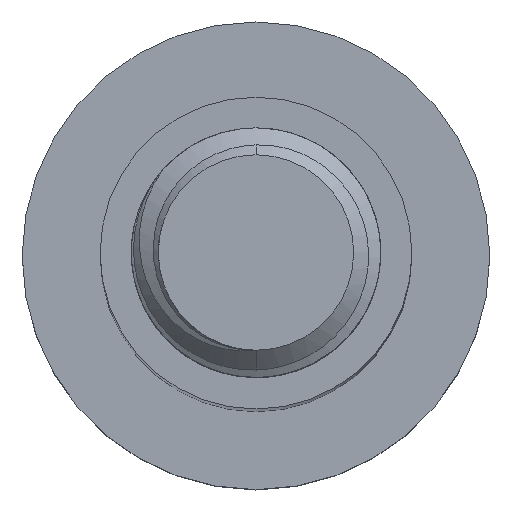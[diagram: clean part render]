
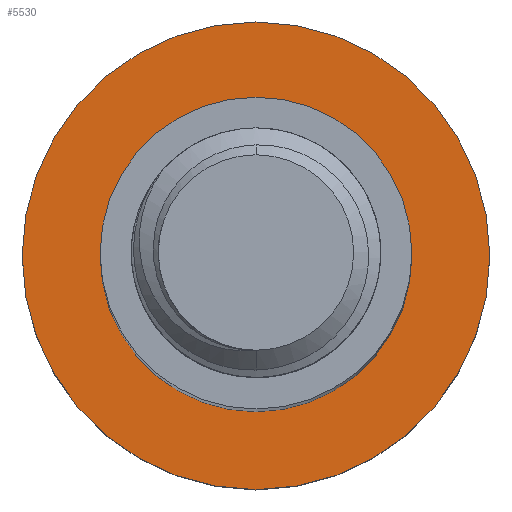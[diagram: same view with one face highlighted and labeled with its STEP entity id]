
A CAD part, top view. The second image highlights one B-rep face of the part: STEP entity #5530.
In plain terms, the highlighted planar face has unit normal (0, 0, 1).
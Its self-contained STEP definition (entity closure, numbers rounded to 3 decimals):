
#116 = ORIENTED_EDGE ( 'NONE', *, *, #5667, .F. ) ;
#378 = CIRCLE ( 'NONE', #1298, 15. ) ;
#610 = EDGE_CURVE ( 'NONE', #5386, #3645, #3294, .T. ) ;
#740 = CARTESIAN_POINT ( 'NONE',  ( 15., 0., -100. ) ) ;
#923 = AXIS2_PLACEMENT_3D ( 'NONE', #1128, #4188, #5190 ) ;
#1128 = CARTESIAN_POINT ( 'NONE',  ( 0., 0., -100. ) ) ;
#1142 = CARTESIAN_POINT ( 'NONE',  ( 10., 0., -100. ) ) ;
#1284 = CARTESIAN_POINT ( 'NONE',  ( -15., 0., -100. ) ) ;
#1298 = AXIS2_PLACEMENT_3D ( 'NONE', #1615, #5648, #3362 ) ;
#1385 = CIRCLE ( 'NONE', #2296, 10. ) ;
#1522 = EDGE_CURVE ( 'NONE', #3551, #3336, #1926, .T. ) ;
#1615 = CARTESIAN_POINT ( 'NONE',  ( 0., 0., -100. ) ) ;
#1926 = CIRCLE ( 'NONE', #923, 10. ) ;
#2045 = FACE_OUTER_BOUND ( 'NONE', #5200, .T. ) ;
#2096 = DIRECTION ( 'NONE',  ( 0., 0., -1. ) ) ;
#2291 = EDGE_CURVE ( 'NONE', #3336, #3551, #1385, .T. ) ;
#2296 = AXIS2_PLACEMENT_3D ( 'NONE', #3166, #3192, #2359 ) ;
#2359 = DIRECTION ( 'NONE',  ( -1., 0., 0. ) ) ;
#2396 = DIRECTION ( 'NONE',  ( -1., 0., 0. ) ) ;
#2422 = DIRECTION ( 'NONE',  ( 0., 0., -1. ) ) ;
#2454 = EDGE_LOOP ( 'NONE', ( #5304, #5119 ) ) ;
#3017 = AXIS2_PLACEMENT_3D ( 'NONE', #4971, #2422, #2396 ) ;
#3019 = CARTESIAN_POINT ( 'NONE',  ( 0., 0., -100. ) ) ;
#3166 = CARTESIAN_POINT ( 'NONE',  ( 0., 0., -100. ) ) ;
#3192 = DIRECTION ( 'NONE',  ( 0., 0., -1. ) ) ;
#3274 = CARTESIAN_POINT ( 'NONE',  ( -10., 0., -100. ) ) ;
#3294 = CIRCLE ( 'NONE', #3017, 15. ) ;
#3336 = VERTEX_POINT ( 'NONE', #3274 ) ;
#3362 = DIRECTION ( 'NONE',  ( -1., 0., 0. ) ) ;
#3551 = VERTEX_POINT ( 'NONE', #1142 ) ;
#3645 = VERTEX_POINT ( 'NONE', #1284 ) ;
#3884 = FACE_BOUND ( 'NONE', #2454, .T. ) ;
#4188 = DIRECTION ( 'NONE',  ( 0., 0., -1. ) ) ;
#4276 = PLANE ( 'NONE',  #4534 ) ;
#4439 = ORIENTED_EDGE ( 'NONE', *, *, #610, .F. ) ;
#4534 = AXIS2_PLACEMENT_3D ( 'NONE', #3019, #2096, #5622 ) ;
#4971 = CARTESIAN_POINT ( 'NONE',  ( 0., 0., -100. ) ) ;
#5119 = ORIENTED_EDGE ( 'NONE', *, *, #1522, .T. ) ;
#5190 = DIRECTION ( 'NONE',  ( -1., 0., 0. ) ) ;
#5200 = EDGE_LOOP ( 'NONE', ( #4439, #116 ) ) ;
#5304 = ORIENTED_EDGE ( 'NONE', *, *, #2291, .T. ) ;
#5386 = VERTEX_POINT ( 'NONE', #740 ) ;
#5530 = ADVANCED_FACE ( 'NONE', ( #3884, #2045 ), #4276, .F. ) ;
#5622 = DIRECTION ( 'NONE',  ( -1., 0., 0. ) ) ;
#5648 = DIRECTION ( 'NONE',  ( 0., 0., -1. ) ) ;
#5667 = EDGE_CURVE ( 'NONE', #3645, #5386, #378, .T. ) ;
